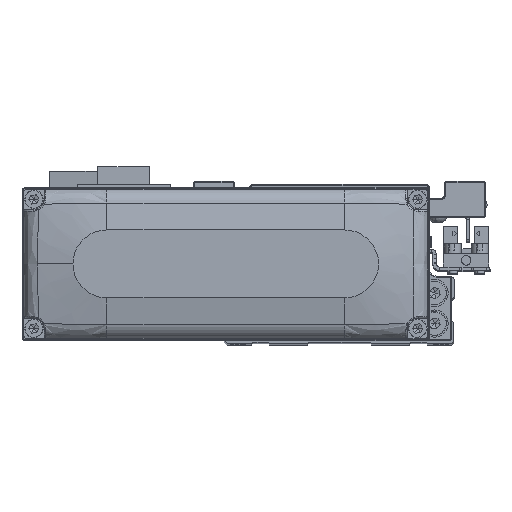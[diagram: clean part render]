
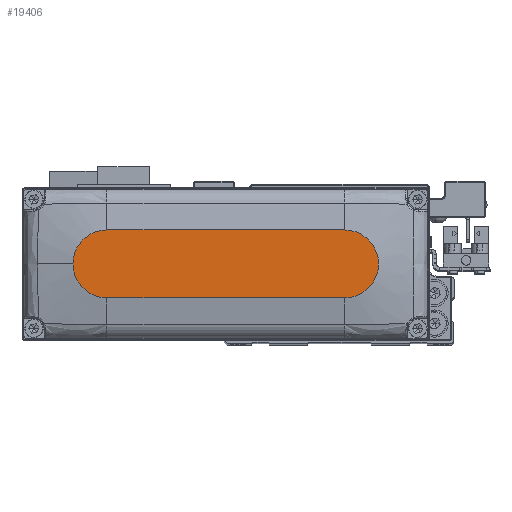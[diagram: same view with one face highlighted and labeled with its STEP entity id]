
A CAD part, top view. The second image highlights one B-rep face of the part: STEP entity #19406.
In plain terms, the highlighted planar face has unit normal (0, 0, 1).
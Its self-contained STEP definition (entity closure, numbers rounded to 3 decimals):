
#96 = CARTESIAN_POINT ( 'NONE',  ( 35., -10., 28. ) ) ;
#1372 = ORIENTED_EDGE ( 'NONE', *, *, #6213, .T. ) ;
#2698 = CARTESIAN_POINT ( 'NONE',  ( 35., 0., 28. ) ) ;
#4346 = DIRECTION ( 'NONE',  ( 1., 0., 0. ) ) ;
#4514 = ORIENTED_EDGE ( 'NONE', *, *, #7550, .T. ) ;
#5350 = EDGE_CURVE ( 'NONE', #11844, #26249, #7820, .T. ) ;
#6213 = EDGE_CURVE ( 'NONE', #13846, #11844, #14030, .T. ) ;
#7133 = CARTESIAN_POINT ( 'NONE',  ( -35., 10., 28. ) ) ;
#7168 = PLANE ( 'NONE',  #8161 ) ;
#7550 = EDGE_CURVE ( 'NONE', #27314, #13846, #12094, .T. ) ;
#7820 = CIRCLE ( 'NONE', #12661, 10. ) ;
#8161 = AXIS2_PLACEMENT_3D ( 'NONE', #18747, #30330, #4346 ) ;
#8275 = DIRECTION ( 'NONE',  ( 1., 0., 0. ) ) ;
#10093 = EDGE_CURVE ( 'NONE', #26249, #28498, #28281, .T. ) ;
#11521 = CARTESIAN_POINT ( 'NONE',  ( -35., 0., 28. ) ) ;
#11844 = VERTEX_POINT ( 'NONE', #96 ) ;
#11915 = AXIS2_PLACEMENT_3D ( 'NONE', #2698, #14254, #25826 ) ;
#12094 = CIRCLE ( 'NONE', #33295, 10. ) ;
#12661 = AXIS2_PLACEMENT_3D ( 'NONE', #22702, #34266, #8275 ) ;
#13846 = VERTEX_POINT ( 'NONE', #27516 ) ;
#14030 = LINE ( 'NONE', #25607, #16356 ) ;
#14254 = DIRECTION ( 'NONE',  ( 0., 0., 1. ) ) ;
#16315 = CARTESIAN_POINT ( 'NONE',  ( 45., 0., 28. ) ) ;
#16356 = VECTOR ( 'NONE', #37187, 1000. ) ;
#18712 = DIRECTION ( 'NONE',  ( -1., 0., 0. ) ) ;
#18747 = CARTESIAN_POINT ( 'NONE',  ( 0., 0., 28. ) ) ;
#19406 = ADVANCED_FACE ( 'NONE', ( #33157 ), #7168, .T. ) ;
#19563 = VECTOR ( 'NONE', #18712, 1000. ) ;
#20265 = DIRECTION ( 'NONE',  ( 0., 0., 1. ) ) ;
#22702 = CARTESIAN_POINT ( 'NONE',  ( 35., 0., 28. ) ) ;
#22742 = ORIENTED_EDGE ( 'NONE', *, *, #35653, .T. ) ;
#25607 = CARTESIAN_POINT ( 'NONE',  ( -35., -10., 28. ) ) ;
#25826 = DIRECTION ( 'NONE',  ( 1., 0., 0. ) ) ;
#26249 = VERTEX_POINT ( 'NONE', #16315 ) ;
#27314 = VERTEX_POINT ( 'NONE', #34688 ) ;
#27516 = CARTESIAN_POINT ( 'NONE',  ( -35., -10., 28. ) ) ;
#28281 = CIRCLE ( 'NONE', #11915, 10. ) ;
#28498 = VERTEX_POINT ( 'NONE', #33621 ) ;
#30330 = DIRECTION ( 'NONE',  ( 0., 0., 1. ) ) ;
#31842 = DIRECTION ( 'NONE',  ( 1., 0., 0. ) ) ;
#33035 = ORIENTED_EDGE ( 'NONE', *, *, #10093, .T. ) ;
#33123 = LINE ( 'NONE', #7133, #19563 ) ;
#33157 = FACE_OUTER_BOUND ( 'NONE', #34236, .T. ) ;
#33295 = AXIS2_PLACEMENT_3D ( 'NONE', #11521, #20265, #31842 ) ;
#33621 = CARTESIAN_POINT ( 'NONE',  ( 35., 10., 28. ) ) ;
#34236 = EDGE_LOOP ( 'NONE', ( #22742, #4514, #1372, #35854, #33035 ) ) ;
#34266 = DIRECTION ( 'NONE',  ( 0., 0., 1. ) ) ;
#34688 = CARTESIAN_POINT ( 'NONE',  ( -35., 10., 28. ) ) ;
#35653 = EDGE_CURVE ( 'NONE', #28498, #27314, #33123, .T. ) ;
#35854 = ORIENTED_EDGE ( 'NONE', *, *, #5350, .T. ) ;
#37187 = DIRECTION ( 'NONE',  ( 1., 0., 0. ) ) ;
